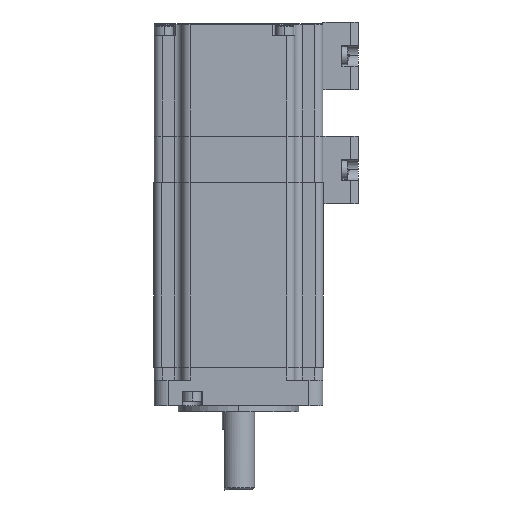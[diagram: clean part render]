
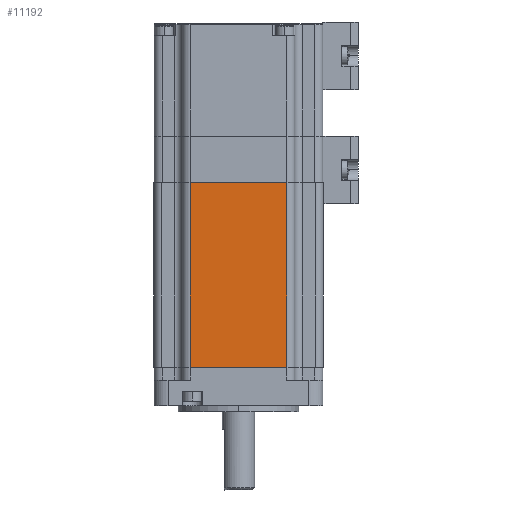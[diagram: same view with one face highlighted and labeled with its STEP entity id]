
A CAD part, left-side view. The second image highlights one B-rep face of the part: STEP entity #11192.
In plain terms, the highlighted planar face has unit normal (-1, 0, 0).
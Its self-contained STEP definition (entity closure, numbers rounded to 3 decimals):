
#318 = VERTEX_POINT ( 'NONE', #8535 ) ;
#759 = EDGE_CURVE ( 'NONE', #318, #14833, #6139, .T. ) ;
#1071 = DIRECTION ( 'NONE',  ( 0., 0., 1. ) ) ;
#1573 = VECTOR ( 'NONE', #11110, 1000. ) ;
#2163 = LINE ( 'NONE', #12507, #6106 ) ;
#4307 = CARTESIAN_POINT ( 'NONE',  ( -35.783, 2.542, 0. ) ) ;
#5700 = CARTESIAN_POINT ( 'NONE',  ( -35.783, 26.542, 46. ) ) ;
#6106 = VECTOR ( 'NONE', #7233, 1000. ) ;
#6139 = LINE ( 'NONE', #9748, #1573 ) ;
#6562 = PLANE ( 'NONE',  #8512 ) ;
#6609 = VERTEX_POINT ( 'NONE', #13455 ) ;
#7020 = DIRECTION ( 'NONE',  ( 0., -1., 0. ) ) ;
#7233 = DIRECTION ( 'NONE',  ( 0., 0., -1. ) ) ;
#8022 = DIRECTION ( 'NONE',  ( 0., -1., 0. ) ) ;
#8112 = ORIENTED_EDGE ( 'NONE', *, *, #13535, .F. ) ;
#8258 = ORIENTED_EDGE ( 'NONE', *, *, #14657, .F. ) ;
#8512 = AXIS2_PLACEMENT_3D ( 'NONE', #12994, #17061, #1071 ) ;
#8535 = CARTESIAN_POINT ( 'NONE',  ( -35.783, 26.542, 46. ) ) ;
#9563 = CARTESIAN_POINT ( 'NONE',  ( -35.783, 2.542, 0. ) ) ;
#9748 = CARTESIAN_POINT ( 'NONE',  ( -35.783, 26.542, 0. ) ) ;
#10511 = EDGE_LOOP ( 'NONE', ( #14254, #8258, #8112, #10826 ) ) ;
#10826 = ORIENTED_EDGE ( 'NONE', *, *, #759, .T. ) ;
#10841 = LINE ( 'NONE', #9563, #11680 ) ;
#11110 = DIRECTION ( 'NONE',  ( 0., 0., -1. ) ) ;
#11147 = FACE_OUTER_BOUND ( 'NONE', #10511, .T. ) ;
#11192 = ADVANCED_FACE ( 'NONE', ( #11147 ), #6562, .T. ) ;
#11319 = VECTOR ( 'NONE', #7020, 1000. ) ;
#11680 = VECTOR ( 'NONE', #8022, 1000. ) ;
#12507 = CARTESIAN_POINT ( 'NONE',  ( -35.783, 2.542, 0. ) ) ;
#12994 = CARTESIAN_POINT ( 'NONE',  ( -35.783, 26.542, 0. ) ) ;
#13367 = VERTEX_POINT ( 'NONE', #4307 ) ;
#13455 = CARTESIAN_POINT ( 'NONE',  ( -35.783, 2.542, 46. ) ) ;
#13535 = EDGE_CURVE ( 'NONE', #318, #6609, #14854, .T. ) ;
#14254 = ORIENTED_EDGE ( 'NONE', *, *, #15108, .T. ) ;
#14657 = EDGE_CURVE ( 'NONE', #6609, #13367, #2163, .T. ) ;
#14833 = VERTEX_POINT ( 'NONE', #16991 ) ;
#14854 = LINE ( 'NONE', #5700, #11319 ) ;
#15108 = EDGE_CURVE ( 'NONE', #14833, #13367, #10841, .T. ) ;
#16991 = CARTESIAN_POINT ( 'NONE',  ( -35.783, 26.542, 0. ) ) ;
#17061 = DIRECTION ( 'NONE',  ( -1., 0., 0. ) ) ;
